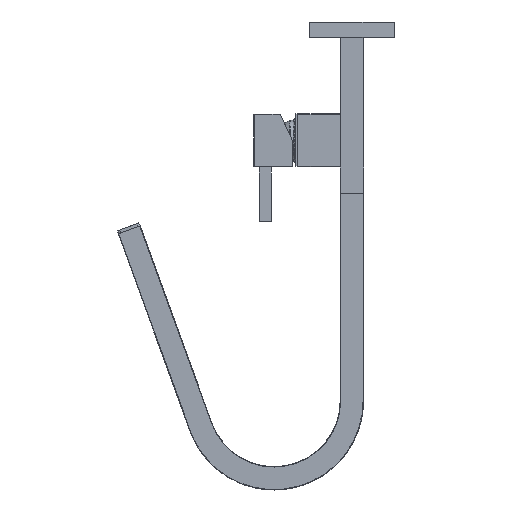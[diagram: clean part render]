
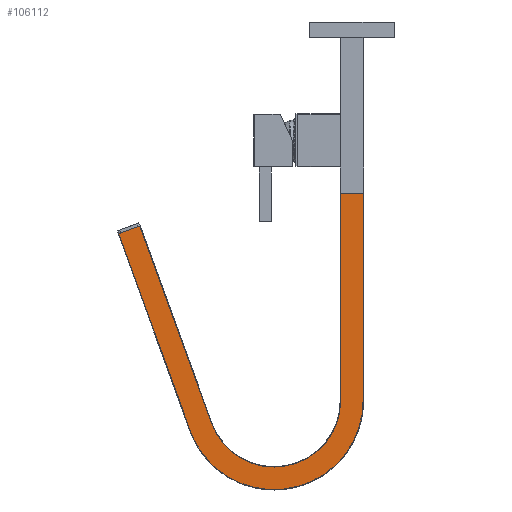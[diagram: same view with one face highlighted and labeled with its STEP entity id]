
A CAD part, left-side view. The second image highlights one B-rep face of the part: STEP entity #106112.
In plain terms, the highlighted planar face has unit normal (-1, 0, 0) as drawn and (0, 0, 1) by its records, which use the part's own axes.
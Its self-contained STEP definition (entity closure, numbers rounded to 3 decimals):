
#621 = ORIENTED_EDGE ( 'NONE', *, *, #65251, .T. ) ;
#643 = EDGE_CURVE ( 'NONE', #106137, #27000, #44980, .T. ) ;
#792 = ORIENTED_EDGE ( 'NONE', *, *, #67812, .T. ) ;
#852 = VECTOR ( 'NONE', #82610, 1000. ) ;
#960 = VERTEX_POINT ( 'NONE', #100690 ) ;
#1978 = B_SPLINE_CURVE_WITH_KNOTS ( 'NONE', 3,
 ( #24513, #50585, #24877, #74398, #91662, #83567, #108499, #58282, #25236, #33279, #41764, #16447, #8664, #100409, #67394, #17151, #32576, #25588, #84286, #40697, #75125, #49149, #92023, #7259, #82885, #65973, #24161, #91295, #41045, #49502, #108128, #57913, #7619, #84998, #26318, #43926, #69208, #93082, #34731, #76574, #76937, #52009, #60055, #84645 ),
 .UNSPECIFIED., .F., .F.,
 ( 4, 1, 1, 1, 2, 2, 2, 2, 2, 2, 2, 2, 2, 2, 2, 2, 2, 2, 2, 1, 1, 1, 2, 2, 4 ),
 ( 0., 0.031, 0.047, 0.055, 0.059, 0.063, 0.125, 0.188, 0.25, 0.313, 0.375, 0.438, 0.5, 0.563, 0.625, 0.688, 0.75, 0.813, 0.875, 0.906, 0.922, 0.93, 0.934, 0.938, 1. ),
 .UNSPECIFIED. ) ;
#2395 = DIRECTION ( 'NONE',  ( 1., 0., 0. ) ) ;
#2991 = CARTESIAN_POINT ( 'NONE',  ( -7.25, 133.4, 20. ) ) ;
#3517 = VERTEX_POINT ( 'NONE', #74775 ) ;
#5939 = VECTOR ( 'NONE', #17213, 1000. ) ;
#6976 = ORIENTED_EDGE ( 'NONE', *, *, #55156, .T. ) ;
#7259 = CARTESIAN_POINT ( 'NONE',  ( 47.506, 176.15, 20. ) ) ;
#7301 = LINE ( 'NONE', #84707, #5939 ) ;
#7619 = CARTESIAN_POINT ( 'NONE',  ( 79.389, 164.546, 20. ) ) ;
#8664 = CARTESIAN_POINT ( 'NONE',  ( 14.224, 156.934, 20. ) ) ;
#9076 = VECTOR ( 'NONE', #98437, 1000. ) ;
#10114 = ORIENTED_EDGE ( 'NONE', *, *, #68271, .T. ) ;
#11440 = CARTESIAN_POINT ( 'NONE',  ( -7.25, 217.094, 20. ) ) ;
#11802 =( BOUNDED_CURVE ( )  B_SPLINE_CURVE ( 3, ( #2991, #11440, #95482, #36430 ),
 .UNSPECIFIED., .F., .F. ) 
 B_SPLINE_CURVE_WITH_KNOTS ( ( 4, 4 ),
 ( 0., 1. ),
 .UNSPECIFIED. ) 
 CURVE ( )  GEOMETRIC_REPRESENTATION_ITEM ( )  RATIONAL_B_SPLINE_CURVE ( ( 1., 0.449, 0.449, 1. ) ) 
 REPRESENTATION_ITEM ( '' )  );
#15053 = AXIS2_PLACEMENT_3D ( 'NONE', #18848, #53698, #69797 ) ;
#16262 = VERTEX_POINT ( 'NONE', #40302 ) ;
#16447 = CARTESIAN_POINT ( 'NONE',  ( 11.731, 152.616, 20. ) ) ;
#17151 = CARTESIAN_POINT ( 'NONE',  ( 20.611, 164.546, 20. ) ) ;
#17213 = DIRECTION ( 'NONE',  ( 0.94, 0.342, 0. ) ) ;
#18464 = CARTESIAN_POINT ( 'NONE',  ( 7.25, 0., 20. ) ) ;
#18848 = CARTESIAN_POINT ( 'NONE',  ( -7.5, 0., 20. ) ) ;
#20822 = VERTEX_POINT ( 'NONE', #89323 ) ;
#22657 = VECTOR ( 'NONE', #2395, 1000. ) ;
#23017 = CARTESIAN_POINT ( 'NONE',  ( 90.172, 148.021, 20. ) ) ;
#24161 = CARTESIAN_POINT ( 'NONE',  ( 59.88, 175.067, 20. ) ) ;
#24513 = CARTESIAN_POINT ( 'NONE',  ( 7.25, 133.4, 20. ) ) ;
#24877 = CARTESIAN_POINT ( 'NONE',  ( 7.333, 136.523, 20. ) ) ;
#25236 = CARTESIAN_POINT ( 'NONE',  ( 8.333, 143.281, 20. ) ) ;
#25588 = CARTESIAN_POINT ( 'NONE',  ( 26.466, 169.176, 20. ) ) ;
#26164 = ORIENTED_EDGE ( 'NONE', *, *, #95510, .T. ) ;
#26318 = CARTESIAN_POINT ( 'NONE',  ( 83.548, 159.926, 20. ) ) ;
#27000 = VERTEX_POINT ( 'NONE', #41896 ) ;
#27271 = CARTESIAN_POINT ( 'NONE',  ( -7.25, 0., 20. ) ) ;
#27622 = DIRECTION ( 'NONE',  ( 0., 1., 0. ) ) ;
#28828 = ORIENTED_EDGE ( 'NONE', *, *, #643, .T. ) ;
#32576 = CARTESIAN_POINT ( 'NONE',  ( 24.429, 167.75, 20. ) ) ;
#32871 = VERTEX_POINT ( 'NONE', #79924 ) ;
#33279 = CARTESIAN_POINT ( 'NONE',  ( 8.976, 145.681, 20. ) ) ;
#34731 = CARTESIAN_POINT ( 'NONE',  ( 86.707, 155.312, 20. ) ) ;
#36430 = CARTESIAN_POINT ( 'NONE',  ( 103.797, 152.981, 20. ) ) ;
#36554 = VECTOR ( 'NONE', #27622, 1000. ) ;
#40302 = CARTESIAN_POINT ( 'NONE',  ( 103.797, 152.981, 20. ) ) ;
#40697 = CARTESIAN_POINT ( 'NONE',  ( 33.036, 172.719, 20. ) ) ;
#41045 = CARTESIAN_POINT ( 'NONE',  ( 66.965, 172.719, 20. ) ) ;
#41764 = CARTESIAN_POINT ( 'NONE',  ( 10.681, 150.364, 20. ) ) ;
#41896 = CARTESIAN_POINT ( 'NONE',  ( 7.25, 0., 20. ) ) ;
#43926 = CARTESIAN_POINT ( 'NONE',  ( 84.683, 158.447, 20. ) ) ;
#44980 = LINE ( 'NONE', #95264, #22657 ) ;
#45955 = VERTEX_POINT ( 'NONE', #73160 ) ;
#48367 = EDGE_LOOP ( 'NONE', ( #108783, #621, #28828, #6976, #10114, #66128, #26164, #792 ) ) ;
#49149 = CARTESIAN_POINT ( 'NONE',  ( 40.121, 175.068, 20. ) ) ;
#49502 = CARTESIAN_POINT ( 'NONE',  ( 69.217, 171.668, 20. ) ) ;
#50585 = CARTESIAN_POINT ( 'NONE',  ( 7.251, 134.655, 20. ) ) ;
#52009 = CARTESIAN_POINT ( 'NONE',  ( 88.262, 152.63, 20. ) ) ;
#53698 = DIRECTION ( 'NONE',  ( 0., 0., 1. ) ) ;
#55156 = EDGE_CURVE ( 'NONE', #27000, #960, #85070, .T. ) ;
#57913 = CARTESIAN_POINT ( 'NONE',  ( 75.569, 167.751, 20. ) ) ;
#58282 = CARTESIAN_POINT ( 'NONE',  ( 7.872, 140.669, 20. ) ) ;
#60055 = CARTESIAN_POINT ( 'NONE',  ( 89.311, 150.379, 20. ) ) ;
#62915 = LINE ( 'NONE', #73119, #9076 ) ;
#65251 = EDGE_CURVE ( 'NONE', #32871, #106137, #62915, .T. ) ;
#65973 = CARTESIAN_POINT ( 'NONE',  ( 54.968, 175.934, 20. ) ) ;
#66128 = ORIENTED_EDGE ( 'NONE', *, *, #77670, .T. ) ;
#67394 = CARTESIAN_POINT ( 'NONE',  ( 18.853, 162.788, 20. ) ) ;
#67812 = EDGE_CURVE ( 'NONE', #20822, #16262, #83677, .T. ) ;
#68271 = EDGE_CURVE ( 'NONE', #960, #3517, #1978, .T. ) ;
#68435 = FACE_OUTER_BOUND ( 'NONE', #48367, .T. ) ;
#68701 = PLANE ( 'NONE',  #15053 ) ;
#69208 = CARTESIAN_POINT ( 'NONE',  ( 85.892, 156.638, 20. ) ) ;
#69797 = DIRECTION ( 'NONE',  ( 1., 0., 0. ) ) ;
#70648 = VECTOR ( 'NONE', #81741, 1000. ) ;
#73119 = CARTESIAN_POINT ( 'NONE',  ( -7.25, 0., 20. ) ) ;
#73160 = CARTESIAN_POINT ( 'NONE',  ( 136.345, 21.163, 20. ) ) ;
#74124 = CARTESIAN_POINT ( 'NONE',  ( 149.97, 26.122, 20. ) ) ;
#74398 = CARTESIAN_POINT ( 'NONE',  ( 7.57, 138.681, 20. ) ) ;
#74775 = CARTESIAN_POINT ( 'NONE',  ( 90.172, 148.021, 20. ) ) ;
#75125 = CARTESIAN_POINT ( 'NONE',  ( 37.721, 174.424, 20. ) ) ;
#76574 = CARTESIAN_POINT ( 'NONE',  ( 86.866, 155.044, 20. ) ) ;
#76937 = CARTESIAN_POINT ( 'NONE',  ( 86.946, 154.908, 20. ) ) ;
#77670 = EDGE_CURVE ( 'NONE', #3517, #45955, #92987, .T. ) ;
#79924 = CARTESIAN_POINT ( 'NONE',  ( -7.25, 133.4, 20. ) ) ;
#81741 = DIRECTION ( 'NONE',  ( 0.342, -0.94, 0. ) ) ;
#82610 = DIRECTION ( 'NONE',  ( -0.342, 0.94, 0. ) ) ;
#82885 = CARTESIAN_POINT ( 'NONE',  ( 52.494, 176.15, 20. ) ) ;
#83567 = CARTESIAN_POINT ( 'NONE',  ( 7.796, 140.212, 20. ) ) ;
#83677 = LINE ( 'NONE', #74124, #852 ) ;
#84286 = CARTESIAN_POINT ( 'NONE',  ( 30.783, 171.669, 20. ) ) ;
#84645 = CARTESIAN_POINT ( 'NONE',  ( 90.172, 148.021, 20. ) ) ;
#84707 = CARTESIAN_POINT ( 'NONE',  ( 136.345, 21.163, 20. ) ) ;
#84998 = CARTESIAN_POINT ( 'NONE',  ( 81.146, 162.789, 20. ) ) ;
#85070 = LINE ( 'NONE', #18464, #36554 ) ;
#89323 = CARTESIAN_POINT ( 'NONE',  ( 149.97, 26.122, 20. ) ) ;
#91295 = CARTESIAN_POINT ( 'NONE',  ( 62.279, 174.424, 20. ) ) ;
#91662 = CARTESIAN_POINT ( 'NONE',  ( 7.723, 139.754, 20. ) ) ;
#92023 = CARTESIAN_POINT ( 'NONE',  ( 45.032, 175.934, 20. ) ) ;
#92987 = LINE ( 'NONE', #23017, #70648 ) ;
#93082 = CARTESIAN_POINT ( 'NONE',  ( 86.467, 155.713, 20. ) ) ;
#95264 = CARTESIAN_POINT ( 'NONE',  ( -7.5, 0., 20. ) ) ;
#95482 = CARTESIAN_POINT ( 'NONE',  ( 75.172, 231.627, 20. ) ) ;
#95510 = EDGE_CURVE ( 'NONE', #45955, #20822, #7301, .T. ) ;
#98437 = DIRECTION ( 'NONE',  ( 0., -1., 0. ) ) ;
#100409 = CARTESIAN_POINT ( 'NONE',  ( 15.649, 158.969, 20. ) ) ;
#100690 = CARTESIAN_POINT ( 'NONE',  ( 7.25, 133.4, 20. ) ) ;
#101196 = EDGE_CURVE ( 'NONE', #32871, #16262, #11802, .T. ) ;
#106112 = ADVANCED_FACE ( 'NONE', ( #68435 ), #68701, .T. ) ;
#106137 = VERTEX_POINT ( 'NONE', #27271 ) ;
#108128 = CARTESIAN_POINT ( 'NONE',  ( 73.534, 169.176, 20. ) ) ;
#108499 = CARTESIAN_POINT ( 'NONE',  ( 7.846, 140.518, 20. ) ) ;
#108783 = ORIENTED_EDGE ( 'NONE', *, *, #101196, .F. ) ;
